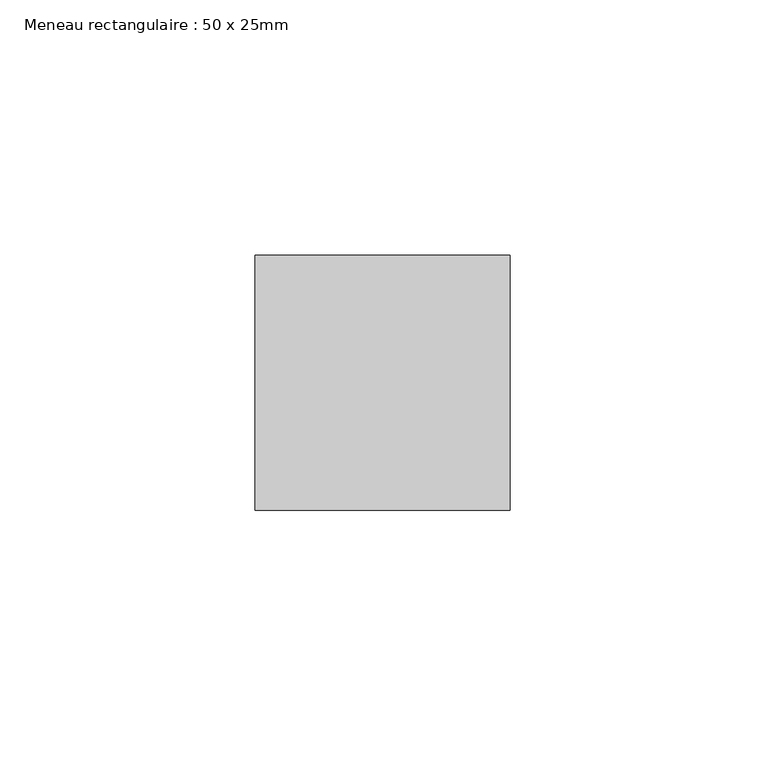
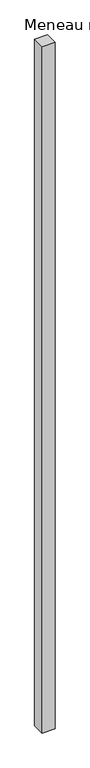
"""IFC4 building model written with IfcOpenShell, lengths in millimetres: member geometry, Meneau rectangulaire : 50 x 25mm."""

from ifc_helpers import new_model, si_unit, frame, origin, place, context, project, spatial, polyline, outline, extrude, source, transform, mapped, element, save


def meneau_rectangulaire_50_x_25mm_04a1546d(model_context):
    return source(origin(), model_context, "Body", "SweptSolid", [
        extrude(outline(polyline([(25.0, 0.0), (25.0, -50.0), (-25.0, -50.0), (-25.0, 0.0), (25.0, 0.0)])), frame((0.0, 0.0, -2825.0), z_axis=(0.0, 0.0, 1.0), x_axis=(1.0, 0.0, 0.0)), (0.0, 0.0, 1.0), 2825.0),
    ])


if __name__ == "__main__":
    model = new_model("IFC4")
    model_context = context("Model", 3, world=origin())
    ifc_project = project(units=[si_unit("LENGTHUNIT", "METRE", prefix="MILLI")], contexts=[model_context])
    site = spatial("IfcSite", under=ifc_project)
    building = spatial("IfcBuilding", under=site)
    placement = place(None, origin())
    meneau_rectangulaire_50_x_25mm_shape = meneau_rectangulaire_50_x_25mm_04a1546d(model_context)
    element("IfcMember", 1, ObjectType="Meneau rectangulaire : 50 x 25mm", at=placement, inside=building, context=model_context, shape_type="MappedRepresentation", body=[
        mapped(meneau_rectangulaire_50_x_25mm_shape, transform((0.0, 0.0, 0.0), x_axis=(1.0, 0.0, 0.0), y_axis=(0.0, 1.0, 0.0), z_axis=(0.0, 0.0, 1.0))),
    ])
    save(model, "model.ifc")
